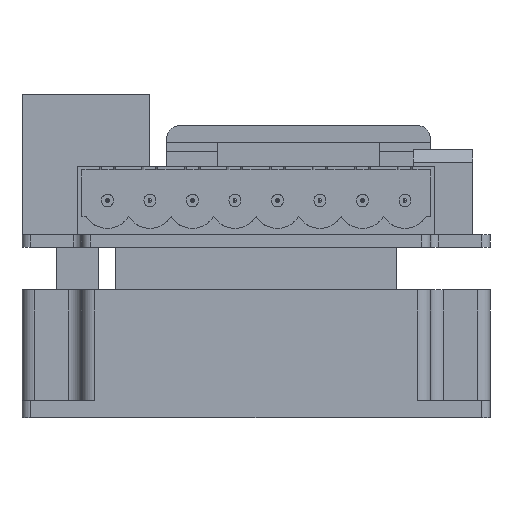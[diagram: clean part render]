
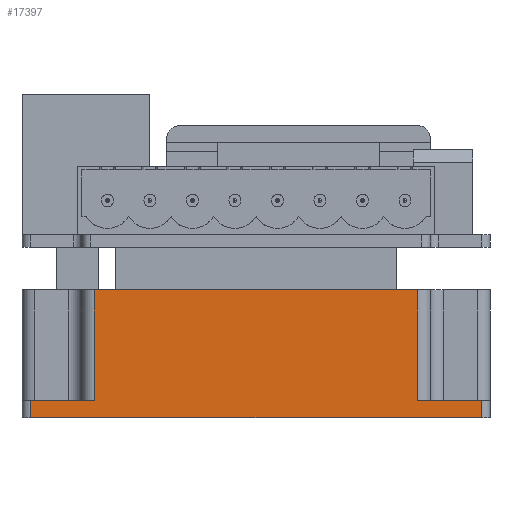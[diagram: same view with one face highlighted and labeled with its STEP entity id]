
A CAD part, left-side view. The second image highlights one B-rep face of the part: STEP entity #17397.
In plain terms, the highlighted planar face has unit normal (-1, 0, 0).
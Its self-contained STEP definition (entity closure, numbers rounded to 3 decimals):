
#183 = VECTOR ( 'NONE', #22970, 1000. ) ;
#265 = VECTOR ( 'NONE', #22454, 1000. ) ;
#515 = CARTESIAN_POINT ( 'NONE',  ( -90.997, 35.329, -15.75 ) ) ;
#949 = LINE ( 'NONE', #20961, #183 ) ;
#1278 = CARTESIAN_POINT ( 'NONE',  ( -90.997, -10.171, -13.75 ) ) ;
#1341 = EDGE_CURVE ( 'NONE', #10400, #7770, #2944, .T. ) ;
#1352 = ORIENTED_EDGE ( 'NONE', *, *, #12843, .T. ) ;
#1436 = CARTESIAN_POINT ( 'NONE',  ( -90.997, 35.329, -0.75 ) ) ;
#1809 = DIRECTION ( 'NONE',  ( -1., 0., 0. ) ) ;
#2254 = EDGE_CURVE ( 'NONE', #4663, #10169, #10813, .T. ) ;
#2457 = CARTESIAN_POINT ( 'NONE',  ( -90.997, -10.171, -15.75 ) ) ;
#2923 = PLANE ( 'NONE',  #13800 ) ;
#2944 = LINE ( 'NONE', #17536, #5152 ) ;
#3138 = VECTOR ( 'NONE', #8460, 1000. ) ;
#3143 = FACE_OUTER_BOUND ( 'NONE', #4501, .T. ) ;
#4495 = DIRECTION ( 'NONE',  ( 0., 0., -1. ) ) ;
#4501 = EDGE_LOOP ( 'NONE', ( #1352, #17234, #6072, #13264, #8363, #23439, #19041, #9478 ) ) ;
#4663 = VERTEX_POINT ( 'NONE', #9969 ) ;
#4742 = CARTESIAN_POINT ( 'NONE',  ( -90.997, 44.829, -13.75 ) ) ;
#5152 = VECTOR ( 'NONE', #4495, 1000. ) ;
#5238 = DIRECTION ( 'NONE',  ( 0., 0., -1. ) ) ;
#5445 = VERTEX_POINT ( 'NONE', #1436 ) ;
#5476 = CARTESIAN_POINT ( 'NONE',  ( -90.997, 42.829, -13.75 ) ) ;
#5686 = CARTESIAN_POINT ( 'NONE',  ( -90.997, 35.329, -13.75 ) ) ;
#6072 = ORIENTED_EDGE ( 'NONE', *, *, #15351, .T. ) ;
#6172 = EDGE_CURVE ( 'NONE', #13679, #4663, #10161, .T. ) ;
#6846 = VECTOR ( 'NONE', #20810, 1000. ) ;
#7770 = VERTEX_POINT ( 'NONE', #13391 ) ;
#8074 = CARTESIAN_POINT ( 'NONE',  ( -90.997, -11.171, -15.75 ) ) ;
#8239 = LINE ( 'NONE', #17446, #6846 ) ;
#8363 = ORIENTED_EDGE ( 'NONE', *, *, #11306, .T. ) ;
#8460 = DIRECTION ( 'NONE',  ( 0., 1., 0. ) ) ;
#9478 = ORIENTED_EDGE ( 'NONE', *, *, #2254, .T. ) ;
#9749 = LINE ( 'NONE', #8074, #18889 ) ;
#9969 = CARTESIAN_POINT ( 'NONE',  ( -90.997, -2.671, -13.75 ) ) ;
#10161 = LINE ( 'NONE', #4742, #3138 ) ;
#10169 = VERTEX_POINT ( 'NONE', #13088 ) ;
#10400 = VERTEX_POINT ( 'NONE', #5476 ) ;
#10808 = CARTESIAN_POINT ( 'NONE',  ( -90.997, 44.829, -15.75 ) ) ;
#10813 = LINE ( 'NONE', #14264, #13818 ) ;
#11306 = EDGE_CURVE ( 'NONE', #7770, #13596, #9749, .T. ) ;
#11725 = CARTESIAN_POINT ( 'NONE',  ( -90.997, -10.171, -15.75 ) ) ;
#11917 = DIRECTION ( 'NONE',  ( 0., -1., 0. ) ) ;
#12843 = EDGE_CURVE ( 'NONE', #10169, #5445, #949, .T. ) ;
#13088 = CARTESIAN_POINT ( 'NONE',  ( -90.997, -2.671, -0.75 ) ) ;
#13264 = ORIENTED_EDGE ( 'NONE', *, *, #1341, .T. ) ;
#13391 = CARTESIAN_POINT ( 'NONE',  ( -90.997, 42.829, -15.75 ) ) ;
#13596 = VERTEX_POINT ( 'NONE', #11725 ) ;
#13679 = VERTEX_POINT ( 'NONE', #1278 ) ;
#13800 = AXIS2_PLACEMENT_3D ( 'NONE', #10808, #1809, #23584 ) ;
#13818 = VECTOR ( 'NONE', #18101, 1000. ) ;
#13974 = EDGE_CURVE ( 'NONE', #13596, #13679, #15166, .T. ) ;
#14264 = CARTESIAN_POINT ( 'NONE',  ( -90.997, -2.671, -15.75 ) ) ;
#15166 = LINE ( 'NONE', #2457, #265 ) ;
#15351 = EDGE_CURVE ( 'NONE', #23128, #10400, #8239, .T. ) ;
#17234 = ORIENTED_EDGE ( 'NONE', *, *, #20727, .T. ) ;
#17397 = ADVANCED_FACE ( 'NONE', ( #3143 ), #2923, .T. ) ;
#17446 = CARTESIAN_POINT ( 'NONE',  ( -90.997, 43.829, -13.75 ) ) ;
#17536 = CARTESIAN_POINT ( 'NONE',  ( -90.997, 42.829, -15.75 ) ) ;
#18101 = DIRECTION ( 'NONE',  ( 0., 0., 1. ) ) ;
#18841 = LINE ( 'NONE', #515, #22768 ) ;
#18889 = VECTOR ( 'NONE', #11917, 1000. ) ;
#19041 = ORIENTED_EDGE ( 'NONE', *, *, #6172, .T. ) ;
#20727 = EDGE_CURVE ( 'NONE', #5445, #23128, #18841, .T. ) ;
#20810 = DIRECTION ( 'NONE',  ( 0., 1., 0. ) ) ;
#20961 = CARTESIAN_POINT ( 'NONE',  ( -90.997, 44.829, -0.75 ) ) ;
#22454 = DIRECTION ( 'NONE',  ( 0., 0., 1. ) ) ;
#22768 = VECTOR ( 'NONE', #5238, 1000. ) ;
#22970 = DIRECTION ( 'NONE',  ( 0., 1., 0. ) ) ;
#23128 = VERTEX_POINT ( 'NONE', #5686 ) ;
#23439 = ORIENTED_EDGE ( 'NONE', *, *, #13974, .T. ) ;
#23584 = DIRECTION ( 'NONE',  ( 0., 0., 1. ) ) ;
